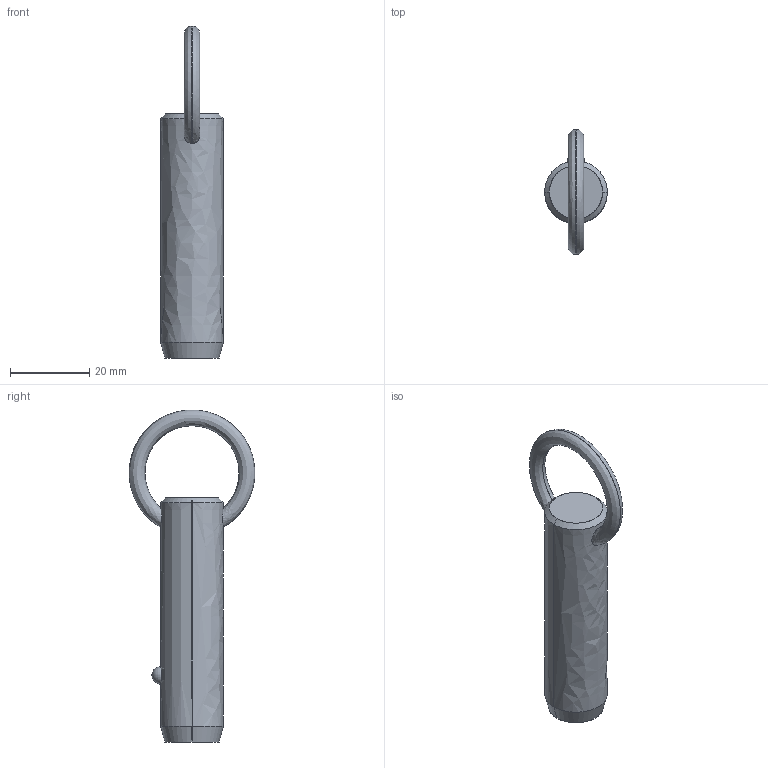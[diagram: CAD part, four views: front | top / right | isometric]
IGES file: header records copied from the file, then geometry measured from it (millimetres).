
Start section: SolidWorks IGES file using analytic representation for surfaces
Global section: file name: C:\Users\liam_\OneDrive\Documents\WORK\Work for WixRoyd\Job Files\J-00019 - Matt Davis CAD Checking\04. CAD Drawings\automotion20190605\P1250.2_v2\P1250.2_v2_20190729_IGES\P1250.062-130.igs; native system: SolidWorks 2017; preprocessor: SolidWorks 2017; author: liam_; date: 190729.233022; units: millimetre
Bounding box: 15.8 x 31.63 x 83.68 mm (x, y, z)
Surface area: 4226.5 mm2 (no closed solid volume)
Topology: 0 solids, 0 shells, 12 faces, 292 edges, 290 vertices
Faces by surface type: revolution 8, bspline 4
